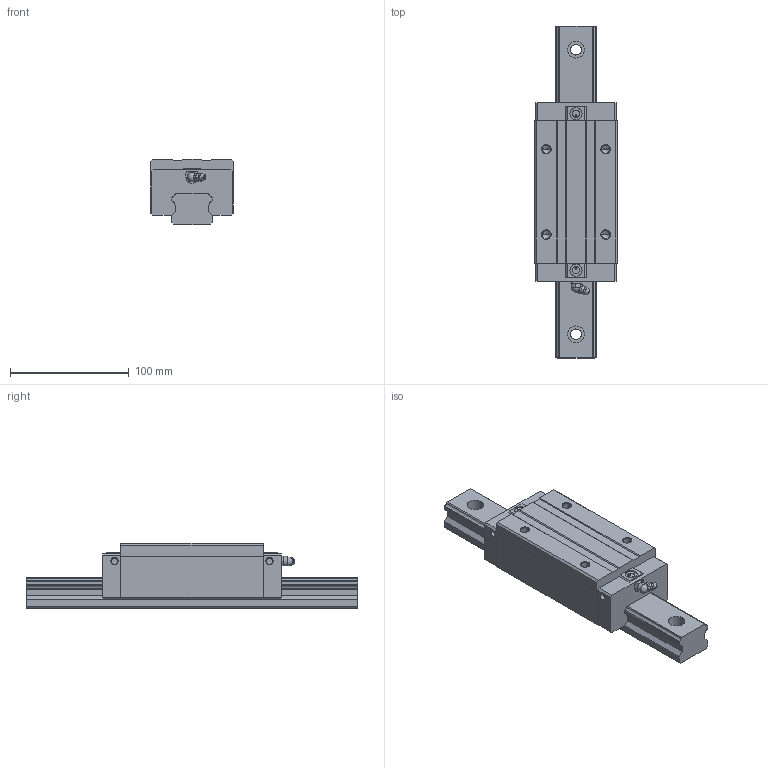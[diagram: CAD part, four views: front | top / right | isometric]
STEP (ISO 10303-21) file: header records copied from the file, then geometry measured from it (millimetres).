
FILE_DESCRIPTION((''),'1');
FILE_NAME(' ',' ',(''),(''),'ACIS Interop R16','Kubotek KeyCreator V6.5.2 (0407)',' ');
FILE_SCHEMA(('CONFIG_CONTROL_DESIGN'));
Length unit declared in the file: millimetre
Products named in the file (3): 1; 2; 3
Bounding box: 70 x 280 x 55 mm (x, y, z)
Volume: 602905.2 mm3; surface area: 86691 mm2
Topology: 3 solids, 3 shells, 232 faces, 607 edges, 391 vertices
Faces by surface type: plane 113, cylinder 74, cone 26, torus 10, sphere 7, bspline 2
Entity records: 7370 total; most frequent: CARTESIAN_POINT 1417, DIRECTION 1260, ORIENTED_EDGE 1186, EDGE_CURVE 593, AXIS2_PLACEMENT_3D 454, VERTEX_POINT 391, LINE 352, VECTOR 352
